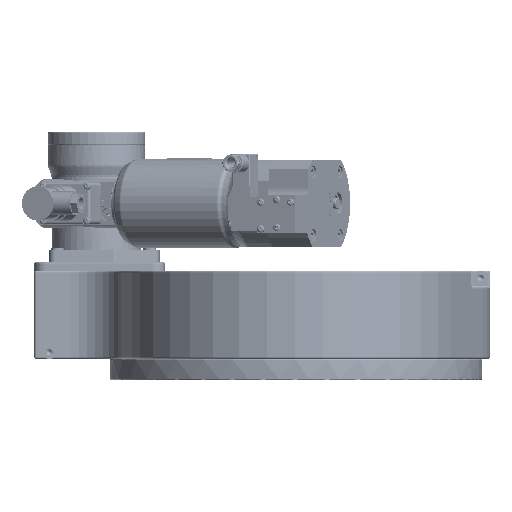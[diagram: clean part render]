
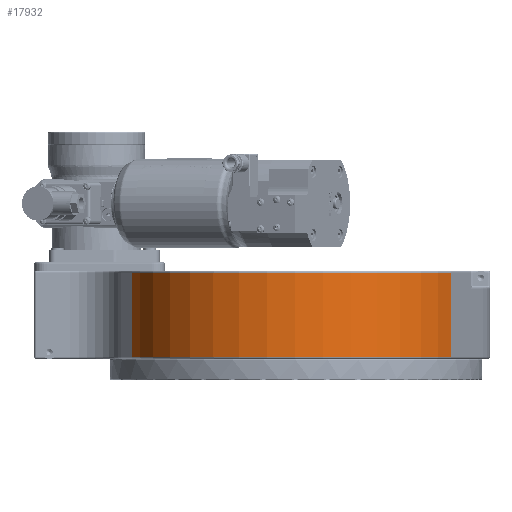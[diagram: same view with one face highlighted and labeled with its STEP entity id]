
A CAD part, front view. The second image highlights one B-rep face of the part: STEP entity #17932.
In plain terms, the highlighted cylindrical face has radius 135 mm (diameter 270 mm), a partial arc.
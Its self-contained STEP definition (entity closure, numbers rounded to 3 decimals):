
#12442=CYLINDRICAL_SURFACE('',#72702,135.);
#13874=FACE_OUTER_BOUND('',#26546,.T.);
#17932=ADVANCED_FACE('',(#13874),#12442,.T.);
#26546=EDGE_LOOP('',(#39921,#39922,#39923,#39924));
#31975=LINE('',#96404,#35780);
#31997=LINE('',#96461,#35802);
#35780=VECTOR('',#79214,1.);
#35802=VECTOR('',#79258,1.);
#39921=ORIENTED_EDGE('',*,*,#62030,.F.);
#39922=ORIENTED_EDGE('',*,*,#62032,.T.);
#39923=ORIENTED_EDGE('',*,*,#62003,.T.);
#39924=ORIENTED_EDGE('',*,*,#62033,.T.);
#56162=VERTEX_POINT('',#96405);
#56163=VERTEX_POINT('',#96406);
#56185=VERTEX_POINT('',#96460);
#56186=VERTEX_POINT('',#96462);
#62003=EDGE_CURVE('',#56162,#56163,#31975,.T.);
#62030=EDGE_CURVE('',#56185,#56186,#31997,.T.);
#62032=EDGE_CURVE('',#56185,#56162,#70005,.T.);
#62033=EDGE_CURVE('',#56163,#56186,#70006,.T.);
#70005=CIRCLE('',#72700,135.);
#70006=CIRCLE('',#72701,135.);
#72700=AXIS2_PLACEMENT_3D('',#96465,#79262,#79263);
#72701=AXIS2_PLACEMENT_3D('',#96466,#79264,#79265);
#72702=AXIS2_PLACEMENT_3D('',#96467,#79266,#79267);
#79214=DIRECTION('',(0.,0.,-1.));
#79258=DIRECTION('',(0.,0.,-1.));
#79262=DIRECTION('',(0.,0.,-1.));
#79263=DIRECTION('',(1.,0.,0.));
#79264=DIRECTION('',(0.,0.,1.));
#79265=DIRECTION('',(1.,0.,0.));
#79266=DIRECTION('',(0.,0.,-1.));
#79267=DIRECTION('',(-1.,0.,0.));
#96404=CARTESIAN_POINT('',(-132.05,-93.068,71.));
#96405=CARTESIAN_POINT('',(-132.05,-93.068,69.5));
#96406=CARTESIAN_POINT('',(-132.05,-93.068,1.5));
#96460=CARTESIAN_POINT('',(125.017,-115.948,69.5));
#96461=CARTESIAN_POINT('',(125.017,-115.948,71.));
#96462=CARTESIAN_POINT('',(125.017,-115.948,1.5));
#96465=CARTESIAN_POINT('',(0.,-65.,69.5));
#96466=CARTESIAN_POINT('',(0.,-65.,1.5));
#96467=CARTESIAN_POINT('',(0.,-65.,71.));
